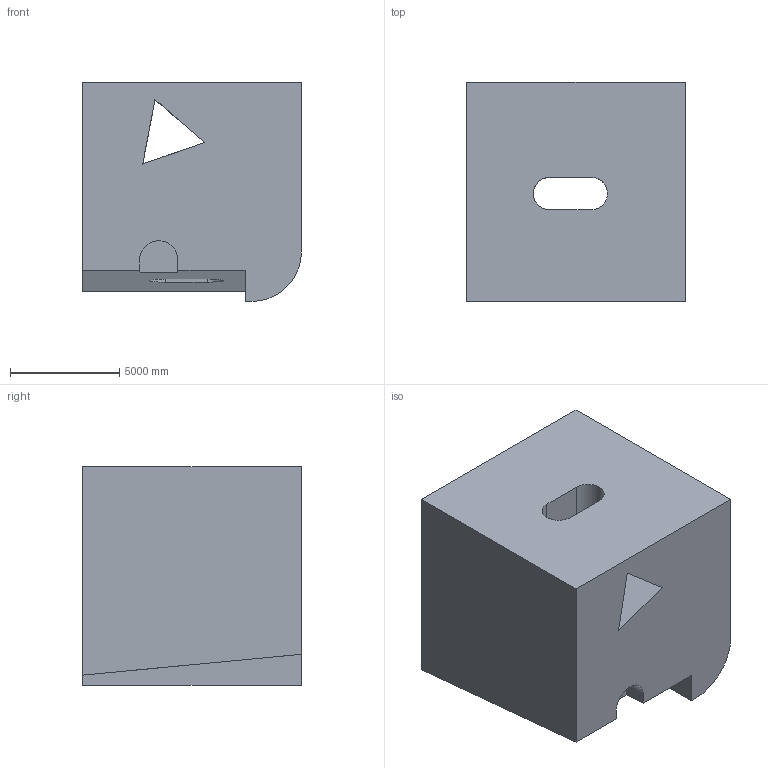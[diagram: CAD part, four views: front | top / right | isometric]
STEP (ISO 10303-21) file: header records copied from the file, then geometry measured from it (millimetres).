
FILE_DESCRIPTION (( 'STEP AP203' ), '1' );
FILE_NAME ('43.STEP', '2022-09-02T15:19:27', ( 'user' ), ( '' ), 'SwSTEP 2.0', 'SolidWorks 2021', '' );
FILE_SCHEMA (( 'CONFIG_CONTROL_DESIGN' ));
Length unit declared in the file: centimetre
Products named in the file (1): 43
Bounding box: 10000 x 10000 x 10000 mm (x, y, z)
Volume: 840371420843.7 mm3; surface area: 708396040.1 mm2
Topology: 1 solids, 1 shells, 23 faces, 69 edges, 46 vertices
Faces by surface type: plane 17, cylinder 6
Entity records: 859 total; most frequent: CARTESIAN_POINT 160, ORIENTED_EDGE 138, DIRECTION 117, EDGE_CURVE 69, LINE 55, VECTOR 55, VERTEX_POINT 46, AXIS2_PLACEMENT_3D 31
